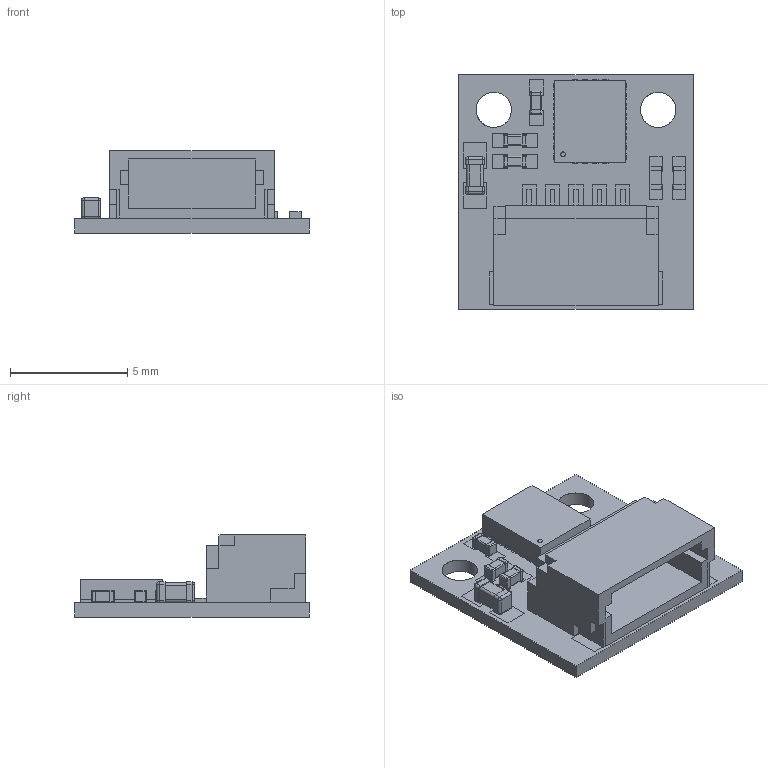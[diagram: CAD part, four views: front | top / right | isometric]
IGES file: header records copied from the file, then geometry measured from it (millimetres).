
Global section: file name: Filename.iges; native system: Open CASCADE 7.4; preprocessor: Open CASCADE IGES processor 7.4; date: 20200723.115528; units: millimetre
Bounding box: 10 x 10 x 3.5 mm (x, y, z)
Surface area: 750.7 mm2 (no closed solid volume)
Topology: 0 solids, 0 shells, 939 faces, 4802 edges, 6994 vertices
Faces by surface type: plane 787, revolution 152
